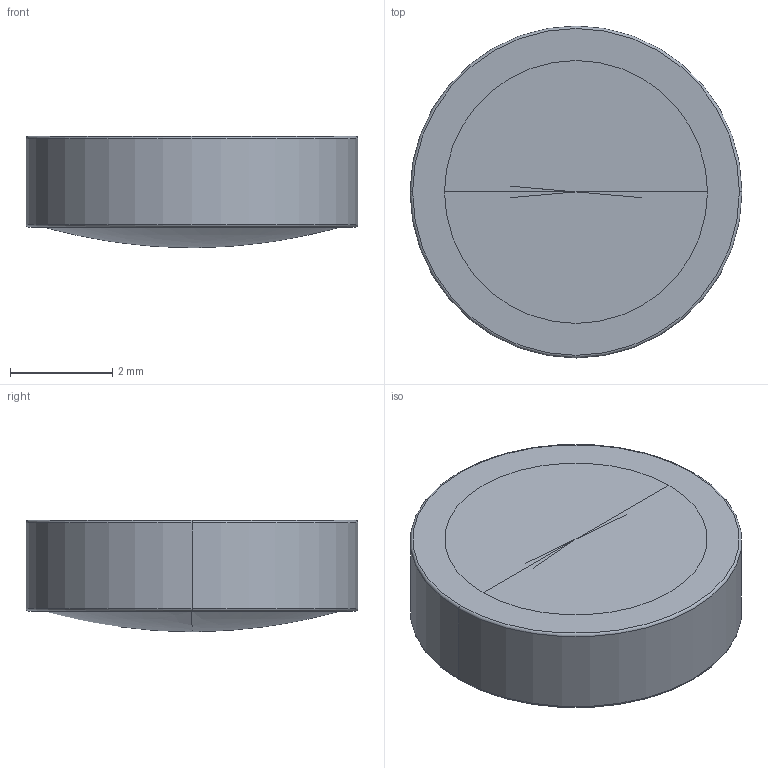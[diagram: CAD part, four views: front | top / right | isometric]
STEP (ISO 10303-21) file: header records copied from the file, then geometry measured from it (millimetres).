
FILE_DESCRIPTION((''),'2;1');
FILE_NAME('354280','2025-07-29T21:40:09',('admin'),('LIGHTPATH'),'CREO PARAMETRIC BY PTC INC, 2024063','CREO PARAMETRIC BY PTC INC, 2024063','');
FILE_SCHEMA(('CONFIG_CONTROL_DESIGN'));
Length unit declared in the file: millimetre
Products named in the file (1): 354280
Bounding box: 6.5 x 6.5 x 2.18 mm (x, y, z)
Volume: 64.3 mm3; surface area: 102.2 mm2
Topology: 1 solids, 1 shells, 14 faces, 30 edges, 16 vertices
Faces by surface type: torus 6, revolution 4, plane 2, cylinder 2
Entity records: 673 total; most frequent: CARTESIAN_POINT 337, DIRECTION 68, ORIENTED_EDGE 52, AXIS2_PLACEMENT_3D 30, EDGE_CURVE 26, CIRCLE 20, VERTEX_POINT 16, EDGE_LOOP 16
